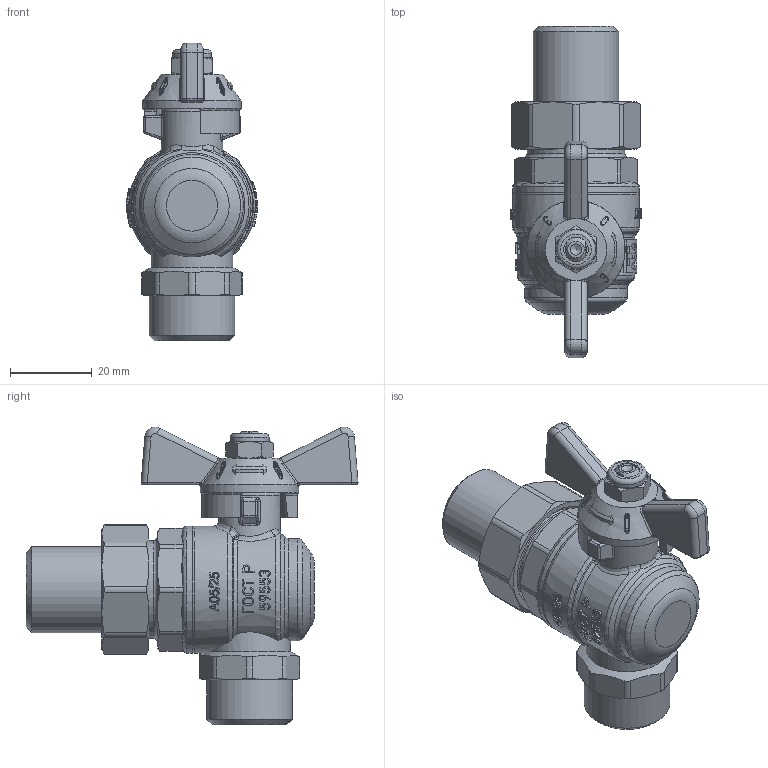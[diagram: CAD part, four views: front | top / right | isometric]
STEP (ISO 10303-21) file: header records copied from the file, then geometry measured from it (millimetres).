
FILE_DESCRIPTION(('STEP AP203'), '1');
FILE_NAME('VT.229S.N.04', '', ('UNSPECIFIED'), ('UNSPECIFIED'), 'C3D Converter', 'C3D Toolkit', '');
FILE_SCHEMA(('CONFIG_CONTROL_DESIGN'));
Length unit declared in the file: millimetre
Products named in the file (1): ВР.491816.024.000 СБ
Bounding box: 31.9 x 81 x 72.68 mm (x, y, z)
Volume: 36582.7 mm3; surface area: 18109.3 mm2
Topology: 1 solids, 1 shells, 1925 faces, 5387 edges, 3522 vertices
Faces by surface type: plane 1419, extrusion 179, cylinder 146, cone 91, bspline 58, torus 28, sphere 4
Full cylindrical faces by diameter (mm): 6 x1, 8 x1, 9.5 x1, 10.5 x1, 12 x1, 13 x1, 15 x4, 18.2 x1, 20.955 x2, 22.2 x1, 23.8 x1, 24 x1, 25 x1, 30.9 x2
Entity records: 72190 total; most frequent: CARTESIAN_POINT 30522, ORIENTED_EDGE 10638, DIRECTION 6478, EDGE_CURVE 5319, VERTEX_POINT 3517, VECTOR 2182, AXIS2_PLACEMENT_3D 2148, EDGE_LOOP 2044
